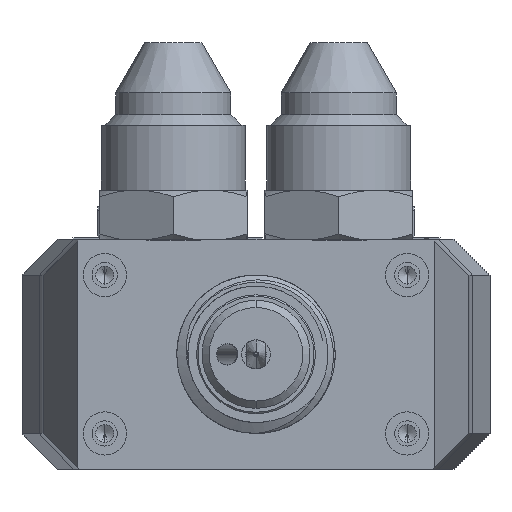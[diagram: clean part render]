
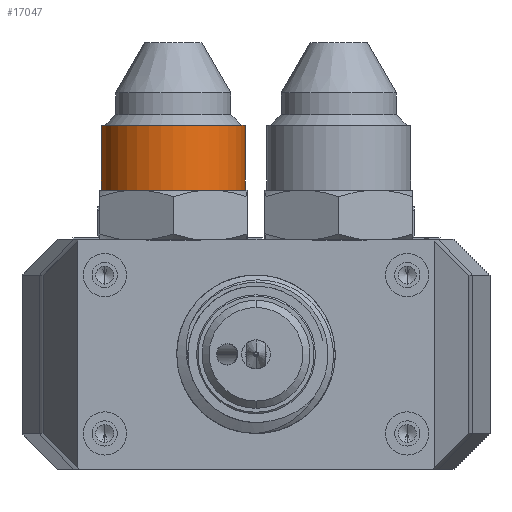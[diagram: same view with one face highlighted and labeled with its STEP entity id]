
A CAD part, front view. The second image highlights one B-rep face of the part: STEP entity #17047.
In plain terms, the highlighted cylindrical face has radius 10 mm (diameter 20 mm), a partial arc.
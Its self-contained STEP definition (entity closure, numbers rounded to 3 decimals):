
#313 = VERTEX_POINT ( 'NONE', #30189 ) ;
#824 = EDGE_CURVE ( 'NONE', #34095, #43629, #6833, .T. ) ;
#2600 = ORIENTED_EDGE ( 'NONE', *, *, #8708, .T. ) ;
#5170 = ORIENTED_EDGE ( 'NONE', *, *, #824, .F. ) ;
#6833 = LINE ( 'NONE', #49009, #23635 ) ;
#7633 = DIRECTION ( 'NONE',  ( 0., 0., 1. ) ) ;
#7654 = CARTESIAN_POINT ( 'NONE',  ( -29.905, -128.319, 1021.303 ) ) ;
#8708 = EDGE_CURVE ( 'NONE', #40960, #313, #47469, .T. ) ;
#11026 = CYLINDRICAL_SURFACE ( 'NONE', #50861, 10. ) ;
#11261 = AXIS2_PLACEMENT_3D ( 'NONE', #53306, #20383, #28095 ) ;
#14558 = CARTESIAN_POINT ( 'NONE',  ( -49.905, -128.319, 1030.303 ) ) ;
#14648 = ORIENTED_EDGE ( 'NONE', *, *, #44231, .T. ) ;
#17047 = ADVANCED_FACE ( 'NONE', ( #49097 ), #11026, .T. ) ;
#18915 = VECTOR ( 'NONE', #31546, 1000. ) ;
#20300 = DIRECTION ( 'NONE',  ( 0., 0., 1. ) ) ;
#20383 = DIRECTION ( 'NONE',  ( 0., 0., 1. ) ) ;
#23635 = VECTOR ( 'NONE', #7633, 1000. ) ;
#27180 = EDGE_CURVE ( 'NONE', #313, #43629, #44856, .T. ) ;
#28095 = DIRECTION ( 'NONE',  ( 1., 0., 0. ) ) ;
#30189 = CARTESIAN_POINT ( 'NONE',  ( -29.905, -128.319, 1030.303 ) ) ;
#31005 = CARTESIAN_POINT ( 'NONE',  ( -29.905, -128.319, 1052.575 ) ) ;
#31254 = CARTESIAN_POINT ( 'NONE',  ( -49.905, -128.319, 1021.303 ) ) ;
#31546 = DIRECTION ( 'NONE',  ( 0., 0., 1. ) ) ;
#34095 = VERTEX_POINT ( 'NONE', #31254 ) ;
#37030 = DIRECTION ( 'NONE',  ( 1., 0., 0. ) ) ;
#37299 = CARTESIAN_POINT ( 'NONE',  ( -39.905, -128.319, 1052.575 ) ) ;
#38628 = EDGE_LOOP ( 'NONE', ( #5170, #14648, #2600, #44010 ) ) ;
#39276 = CIRCLE ( 'NONE', #11261, 10. ) ;
#40960 = VERTEX_POINT ( 'NONE', #7654 ) ;
#42244 = AXIS2_PLACEMENT_3D ( 'NONE', #43289, #47917, #43553 ) ;
#43289 = CARTESIAN_POINT ( 'NONE',  ( -39.905, -128.319, 1030.303 ) ) ;
#43553 = DIRECTION ( 'NONE',  ( 1., 0., 0. ) ) ;
#43629 = VERTEX_POINT ( 'NONE', #14558 ) ;
#44010 = ORIENTED_EDGE ( 'NONE', *, *, #27180, .T. ) ;
#44231 = EDGE_CURVE ( 'NONE', #34095, #40960, #39276, .T. ) ;
#44856 = CIRCLE ( 'NONE', #42244, 10. ) ;
#47469 = LINE ( 'NONE', #31005, #18915 ) ;
#47917 = DIRECTION ( 'NONE',  ( 0., 0., -1. ) ) ;
#49009 = CARTESIAN_POINT ( 'NONE',  ( -49.905, -128.319, 1052.575 ) ) ;
#49097 = FACE_OUTER_BOUND ( 'NONE', #38628, .T. ) ;
#50861 = AXIS2_PLACEMENT_3D ( 'NONE', #37299, #20300, #37030 ) ;
#53306 = CARTESIAN_POINT ( 'NONE',  ( -39.905, -128.319, 1021.303 ) ) ;
